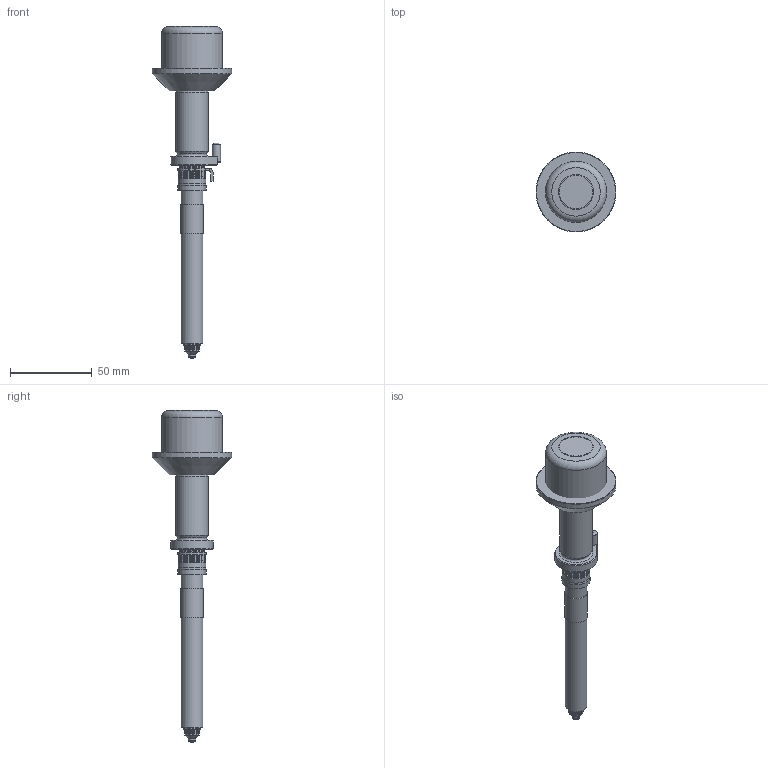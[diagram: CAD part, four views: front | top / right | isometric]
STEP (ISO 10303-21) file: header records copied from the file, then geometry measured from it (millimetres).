
FILE_DESCRIPTION(/* description */ (''),/* implementation_level */ '2;1');
FILE_NAME(/* name */ 'U350 VX.stp',/* time_stamp */ '2021-12-24T15:30:32+08:00',/* author */ (''),/* organization */ (''),/* preprocessor_version */ 'ST-DEVELOPER v16',/* originating_system */ 'SIEMENS PLM Software NX 11.0',/* authorisation */ '');
FILE_SCHEMA (('AUTOMOTIVE_DESIGN { 1 0 10303 214 3 1 1 1 }'));
Length unit declared in the file: millimetre
Products named in the file (16): 3D_EXPORT_3D_ASSY_11314651_3_id84_x_t; 3D_EXPORT_3D_ASSY_11314651_3_id77_x_t; 3D_EXPORT_3D_ASSY_11314651_3_id72_x_t; 3D_EXPORT_3D_ASSY_11314651_3_id67_x_t; 3D_EXPORT_3D_ASSY_11314651_3_id62_x_t; 3D_EXPORT_3D_ASSY_11314651_3_id57_x_t; 3D_EXPORT_3D_ASSY_11314651_3_id52_x_t; 3D_EXPORT_3D_ASSY_11314651_3_id47_x_t; 3D_EXPORT_3D_ASSY_11314651_3_id42_x_t; 3D_EXPORT_3D_ASSY_11314651_3_id37_x_t; 3D_EXPORT_3D_ASSY_11314651_3_id26_x_t; 3D_EXPORT_3D_ASSY_11314651_3_id21_x_t; 3D_EXPORT_3D_ASSY_11314651_3_id16_x_t; 3D_EXPORT_3D_ASSY_11314651_3_id11_x_t; 3D_EXPORT_3D_ASSY_11314651_3_id6_x_t; 3D_EXPORT_3D_ASSY_11314651_3_x_t
Assembly tree (19 placements, depth 2):
  3D_EXPORT_3D_ASSY_11314651_3_x_t
    3D_EXPORT_3D_ASSY_11314651_3_id6_x_t
    3D_EXPORT_3D_ASSY_11314651_3_id11_x_t
    3D_EXPORT_3D_ASSY_11314651_3_id16_x_t
    3D_EXPORT_3D_ASSY_11314651_3_id21_x_t
    3D_EXPORT_3D_ASSY_11314651_3_id26_x_t  x4
    3D_EXPORT_3D_ASSY_11314651_3_id37_x_t
    3D_EXPORT_3D_ASSY_11314651_3_id42_x_t
    3D_EXPORT_3D_ASSY_11314651_3_id47_x_t
    3D_EXPORT_3D_ASSY_11314651_3_id52_x_t
    3D_EXPORT_3D_ASSY_11314651_3_id57_x_t
    3D_EXPORT_3D_ASSY_11314651_3_id62_x_t
    3D_EXPORT_3D_ASSY_11314651_3_id67_x_t
    3D_EXPORT_3D_ASSY_11314651_3_id72_x_t
    3D_EXPORT_3D_ASSY_11314651_3_id77_x_t  x2
    3D_EXPORT_3D_ASSY_11314651_3_id84_x_t
Bounding box: 49 x 49 x 203.54 mm (x, y, z)
Volume: 95868.4 mm3; surface area: 30784.4 mm2
Topology: 19 solids, 19 shells, 411 faces, 990 edges, 621 vertices
Faces by surface type: cylinder 180, plane 125, cone 47, torus 45, bspline 13, sphere 1
Full cylindrical faces by diameter (mm): 1.5 x1, 1.7 x2, 2.49 x1, 2.53 x1, 4.027 x1, 4.6 x1, 4.9 x1, 5 x1, 6.89 x1, 6.895 x1, 7.2 x1, 7.4 x1, 8 x1, 9.4 x1, 9.95 x1, 9.97 x3, 11.06 x1, 11.5 x1, 12.3 x1, 12.494 x1, 12.7 x1, 13.3 x2, 14 x1, 14.05 x1, 15 x1, 16.34 x1, 16.9 x4, 17 x1, 17.27 x1, 19.995 x1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
Entity records: 14016 total; most frequent: CARTESIAN_POINT 2812, DIRECTION 1652, ORIENTED_EDGE 1576, EDGE_CURVE 788, AXIS2_PLACEMENT_3D 677, VERTEX_POINT 541, EDGE_LOOP 523, PRESENTATION_STYLE_ASSIGNMENT 393
